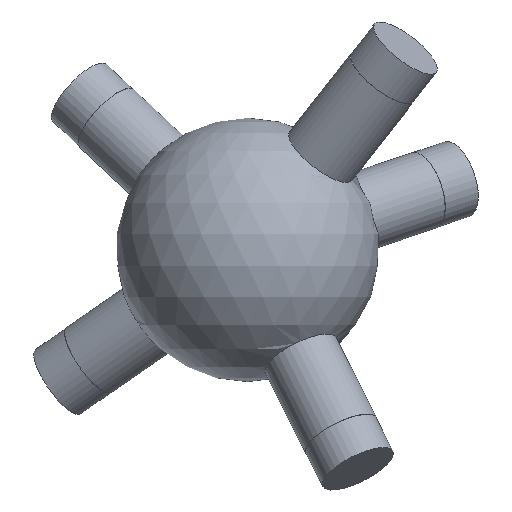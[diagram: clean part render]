
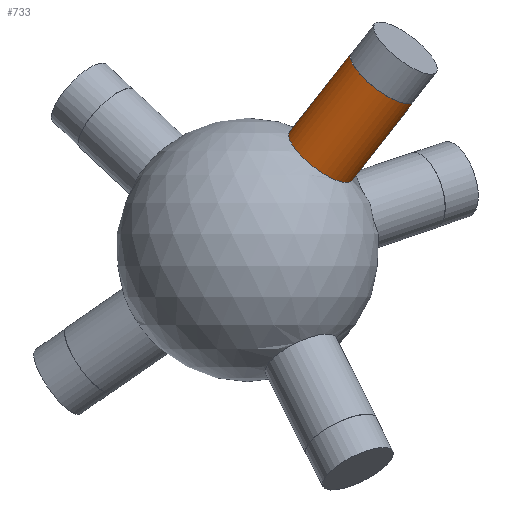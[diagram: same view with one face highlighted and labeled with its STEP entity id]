
A CAD part, left-side view. The second image highlights one B-rep face of the part: STEP entity #733.
In plain terms, the highlighted cylindrical face has radius 6 mm (diameter 12 mm), a full revolution.
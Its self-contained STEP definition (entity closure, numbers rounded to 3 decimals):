
#35 = SPHERICAL_SURFACE('',#36,20.);
#36 = AXIS2_PLACEMENT_3D('',#37,#38,#39);
#37 = CARTESIAN_POINT('',(0.,0.,0.));
#38 = DIRECTION('',(0.,0.,1.));
#39 = DIRECTION('',(1.,0.,-0.));
#416 = EDGE_CURVE('',#417,#417,#419,.T.);
#417 = VERTEX_POINT('',#418);
#418 = CARTESIAN_POINT('',(-6.185,-6.398,
    17.911));
#419 = SURFACE_CURVE('',#420,(#425,#501),.PCURVE_S1.);
#420 = CIRCLE('',#421,6.);
#421 = AXIS2_PLACEMENT_3D('',#422,#423,#424);
#422 = CARTESIAN_POINT('',(-6.185,-11.123,
    14.214));
#423 = DIRECTION('',(-0.324,-0.583,0.745));
#424 = DIRECTION('',(0.,-0.788,-0.616
    ));
#425 = PCURVE('',#35,#426);
#426 = DEFINITIONAL_REPRESENTATION('',(#427),#500);
#427 = B_SPLINE_CURVE_WITH_KNOTS('',8,(#428,#429,#430,#431,#432,#433,
    #434,#435,#436,#437,#438,#439,#440,#441,#442,#443,#444,#445,#446,
    #447,#448,#449,#450,#451,#452,#453,#454,#455,#456,#457,#458,#459,
    #460,#461,#462,#463,#464,#465,#466,#467,#468,#469,#470,#471,#472,
    #473,#474,#475,#476,#477,#478,#479,#480,#481,#482,#483,#484,#485,
    #486,#487,#488,#489,#490,#491,#492,#493,#494,#495,#496,#497,#498,
    #499),.UNSPECIFIED.,.T.,.F.,(9,7,7,7,7,7,7,7,7,7,9),(3.142,
    3.534,4.271,5.559,6.526,
    7.25,7.794,8.202,8.813,
    9.119,9.425),.UNSPECIFIED.);
#428 = CARTESIAN_POINT('',(3.944,1.11));
#429 = CARTESIAN_POINT('',(3.917,1.101));
#430 = CARTESIAN_POINT('',(3.892,1.092));
#431 = CARTESIAN_POINT('',(3.869,1.082));
#432 = CARTESIAN_POINT('',(3.848,1.07));
#433 = CARTESIAN_POINT('',(3.83,1.059));
#434 = CARTESIAN_POINT('',(3.814,1.046));
#435 = CARTESIAN_POINT('',(3.8,1.033));
#436 = CARTESIAN_POINT('',(3.765,0.995));
#437 = CARTESIAN_POINT('',(3.749,0.969));
#438 = CARTESIAN_POINT('',(3.739,0.942));
#439 = CARTESIAN_POINT('',(3.735,0.914));
#440 = CARTESIAN_POINT('',(3.735,0.886));
#441 = CARTESIAN_POINT('',(3.739,0.858));
#442 = CARTESIAN_POINT('',(3.747,0.831));
#443 = CARTESIAN_POINT('',(3.777,0.758));
#444 = CARTESIAN_POINT('',(3.806,0.714));
#445 = CARTESIAN_POINT('',(3.843,0.673));
#446 = CARTESIAN_POINT('',(3.885,0.636));
#447 = CARTESIAN_POINT('',(3.932,0.605));
#448 = CARTESIAN_POINT('',(3.982,0.58));
#449 = CARTESIAN_POINT('',(4.036,0.561));
#450 = CARTESIAN_POINT('',(4.131,0.539));
#451 = CARTESIAN_POINT('',(4.173,0.534));
#452 = CARTESIAN_POINT('',(4.216,0.532));
#453 = CARTESIAN_POINT('',(4.258,0.535));
#454 = CARTESIAN_POINT('',(4.3,0.541));
#455 = CARTESIAN_POINT('',(4.341,0.551));
#456 = CARTESIAN_POINT('',(4.381,0.565));
#457 = CARTESIAN_POINT('',(4.448,0.595));
#458 = CARTESIAN_POINT('',(4.476,0.61));
#459 = CARTESIAN_POINT('',(4.502,0.626));
#460 = CARTESIAN_POINT('',(4.528,0.645));
#461 = CARTESIAN_POINT('',(4.551,0.665));
#462 = CARTESIAN_POINT('',(4.573,0.686));
#463 = CARTESIAN_POINT('',(4.593,0.709));
#464 = CARTESIAN_POINT('',(4.624,0.75));
#465 = CARTESIAN_POINT('',(4.636,0.769));
#466 = CARTESIAN_POINT('',(4.646,0.788));
#467 = CARTESIAN_POINT('',(4.655,0.808));
#468 = CARTESIAN_POINT('',(4.662,0.827));
#469 = CARTESIAN_POINT('',(4.667,0.848));
#470 = CARTESIAN_POINT('',(4.67,0.868));
#471 = CARTESIAN_POINT('',(4.672,0.904));
#472 = CARTESIAN_POINT('',(4.671,0.919));
#473 = CARTESIAN_POINT('',(4.669,0.934));
#474 = CARTESIAN_POINT('',(4.665,0.949));
#475 = CARTESIAN_POINT('',(4.66,0.964));
#476 = CARTESIAN_POINT('',(4.653,0.979));
#477 = CARTESIAN_POINT('',(4.644,0.994));
#478 = CARTESIAN_POINT('',(4.616,1.029));
#479 = CARTESIAN_POINT('',(4.595,1.049));
#480 = CARTESIAN_POINT('',(4.569,1.068));
#481 = CARTESIAN_POINT('',(4.537,1.086));
#482 = CARTESIAN_POINT('',(4.5,1.102));
#483 = CARTESIAN_POINT('',(4.458,1.115));
#484 = CARTESIAN_POINT('',(4.41,1.126));
#485 = CARTESIAN_POINT('',(4.334,1.138));
#486 = CARTESIAN_POINT('',(4.308,1.141));
#487 = CARTESIAN_POINT('',(4.281,1.143));
#488 = CARTESIAN_POINT('',(4.253,1.145));
#489 = CARTESIAN_POINT('',(4.225,1.146));
#490 = CARTESIAN_POINT('',(4.197,1.146));
#491 = CARTESIAN_POINT('',(4.169,1.145));
#492 = CARTESIAN_POINT('',(4.115,1.142));
#493 = CARTESIAN_POINT('',(4.088,1.139));
#494 = CARTESIAN_POINT('',(4.061,1.136));
#495 = CARTESIAN_POINT('',(4.036,1.132));
#496 = CARTESIAN_POINT('',(4.011,1.128));
#497 = CARTESIAN_POINT('',(3.987,1.122));
#498 = CARTESIAN_POINT('',(3.965,1.116));
#499 = CARTESIAN_POINT('',(3.944,1.11));
#500 = ( GEOMETRIC_REPRESENTATION_CONTEXT(2) 
PARAMETRIC_REPRESENTATION_CONTEXT() REPRESENTATION_CONTEXT('2D SPACE',''
  ) );
#501 = PCURVE('',#502,#507);
#502 = CYLINDRICAL_SURFACE('',#503,6.);
#503 = AXIS2_PLACEMENT_3D('',#504,#505,#506);
#504 = CARTESIAN_POINT('',(0.,0.,0.));
#505 = DIRECTION('',(-0.324,-0.583,0.745));
#506 = DIRECTION('',(0.,0.788,0.616));
#507 = DEFINITIONAL_REPRESENTATION('',(#508),#512);
#508 = LINE('',#509,#510);
#509 = CARTESIAN_POINT('',(-3.142,19.079));
#510 = VECTOR('',#511,1.);
#511 = DIRECTION('',(1.,0.));
#512 = ( GEOMETRIC_REPRESENTATION_CONTEXT(2) 
PARAMETRIC_REPRESENTATION_CONTEXT() REPRESENTATION_CONTEXT('2D SPACE',''
  ) );
#733 = ADVANCED_FACE('',(#734),#502,.T.);
#734 = FACE_BOUND('',#735,.T.);
#735 = EDGE_LOOP('',(#736,#759,#786,#787));
#736 = ORIENTED_EDGE('',*,*,#737,.T.);
#737 = EDGE_CURVE('',#417,#738,#740,.T.);
#738 = VERTEX_POINT('',#739);
#739 = CARTESIAN_POINT('',(-11.378,-15.737,
    29.845));
#740 = SEAM_CURVE('',#741,(#745,#752),.PCURVE_S1.);
#741 = LINE('',#742,#743);
#742 = CARTESIAN_POINT('',(0.,4.725,
    3.698));
#743 = VECTOR('',#744,1.);
#744 = DIRECTION('',(-0.324,-0.583,0.745));
#745 = PCURVE('',#502,#746);
#746 = DEFINITIONAL_REPRESENTATION('',(#747),#751);
#747 = LINE('',#748,#749);
#748 = CARTESIAN_POINT('',(6.283,-0.));
#749 = VECTOR('',#750,1.);
#750 = DIRECTION('',(0.,1.));
#751 = ( GEOMETRIC_REPRESENTATION_CONTEXT(2) 
PARAMETRIC_REPRESENTATION_CONTEXT() REPRESENTATION_CONTEXT('2D SPACE',''
  ) );
#752 = PCURVE('',#502,#753);
#753 = DEFINITIONAL_REPRESENTATION('',(#754),#758);
#754 = LINE('',#755,#756);
#755 = CARTESIAN_POINT('',(0.,-0.));
#756 = VECTOR('',#757,1.);
#757 = DIRECTION('',(0.,1.));
#758 = ( GEOMETRIC_REPRESENTATION_CONTEXT(2) 
PARAMETRIC_REPRESENTATION_CONTEXT() REPRESENTATION_CONTEXT('2D SPACE',''
  ) );
#759 = ORIENTED_EDGE('',*,*,#760,.F.);
#760 = EDGE_CURVE('',#738,#738,#761,.T.);
#761 = SURFACE_CURVE('',#762,(#767,#774),.PCURVE_S1.);
#762 = CIRCLE('',#763,6.);
#763 = AXIS2_PLACEMENT_3D('',#764,#765,#766);
#764 = CARTESIAN_POINT('',(-11.378,-20.462,
    26.147));
#765 = DIRECTION('',(-0.324,-0.583,0.745));
#766 = DIRECTION('',(0.,0.788,0.616));
#767 = PCURVE('',#502,#768);
#768 = DEFINITIONAL_REPRESENTATION('',(#769),#773);
#769 = LINE('',#770,#771);
#770 = CARTESIAN_POINT('',(0.,35.097));
#771 = VECTOR('',#772,1.);
#772 = DIRECTION('',(1.,0.));
#773 = ( GEOMETRIC_REPRESENTATION_CONTEXT(2) 
PARAMETRIC_REPRESENTATION_CONTEXT() REPRESENTATION_CONTEXT('2D SPACE',''
  ) );
#774 = PCURVE('',#775,#780);
#775 = PLANE('',#776);
#776 = AXIS2_PLACEMENT_3D('',#777,#778,#779);
#777 = CARTESIAN_POINT('',(-11.378,-20.462,
    26.147));
#778 = DIRECTION('',(-0.324,-0.583,0.745));
#779 = DIRECTION('',(0.,0.788,0.616));
#780 = DEFINITIONAL_REPRESENTATION('',(#781),#785);
#781 = CIRCLE('',#782,6.);
#782 = AXIS2_PLACEMENT_2D('',#783,#784);
#783 = CARTESIAN_POINT('',(0.,0.));
#784 = DIRECTION('',(1.,0.));
#785 = ( GEOMETRIC_REPRESENTATION_CONTEXT(2) 
PARAMETRIC_REPRESENTATION_CONTEXT() REPRESENTATION_CONTEXT('2D SPACE',''
  ) );
#786 = ORIENTED_EDGE('',*,*,#737,.F.);
#787 = ORIENTED_EDGE('',*,*,#416,.T.);
